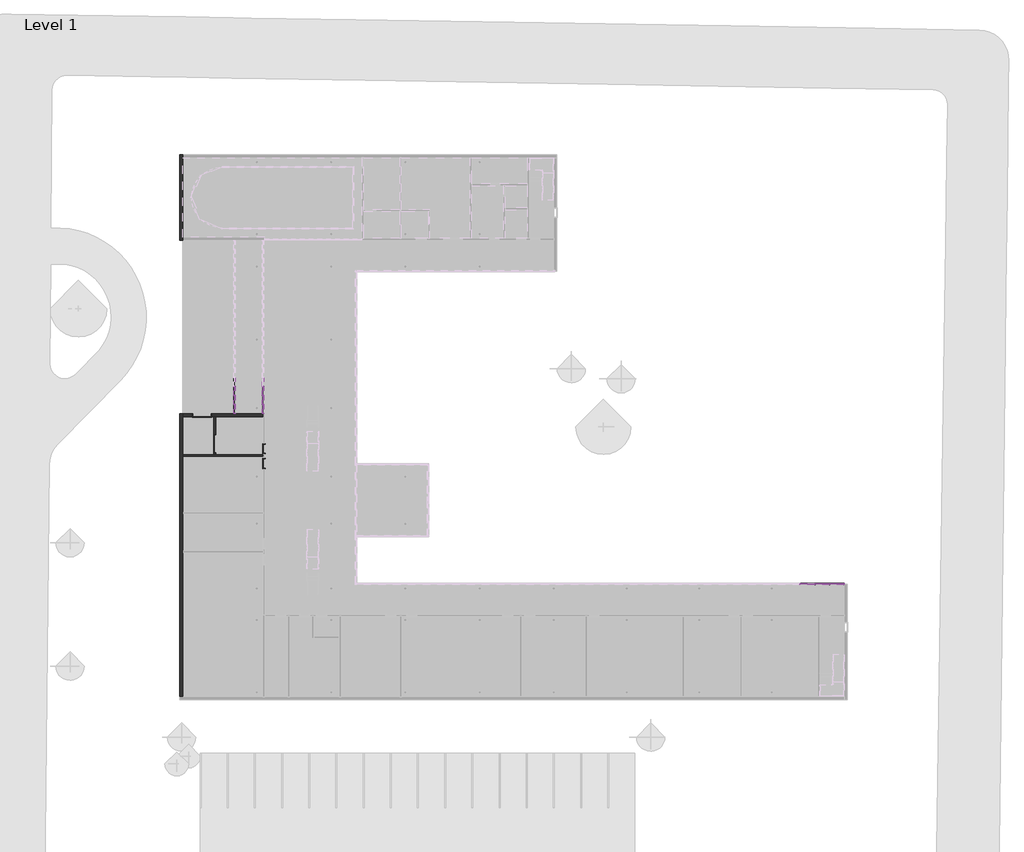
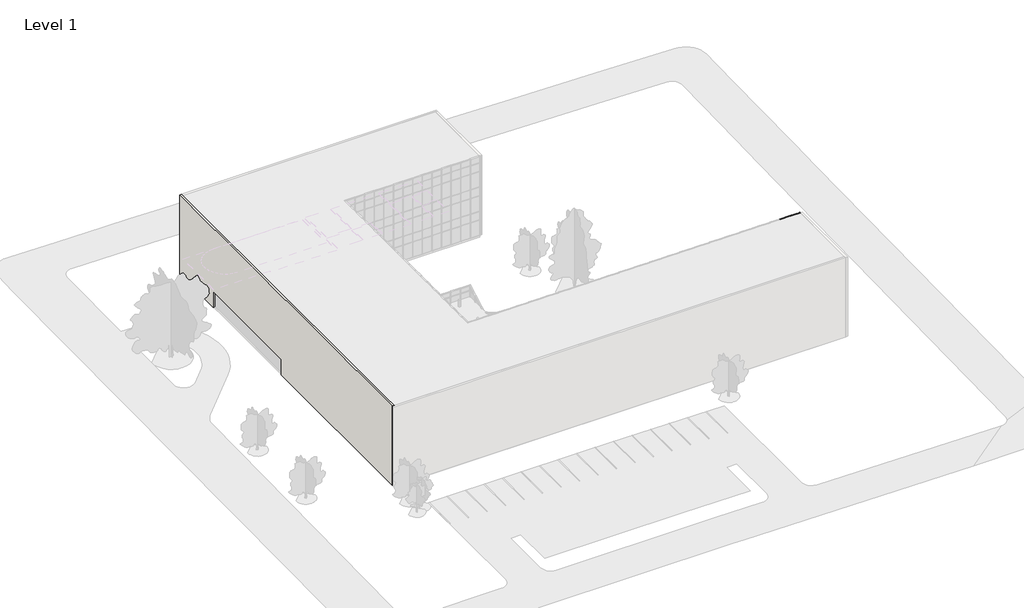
# One storey, part 9 of 23: 81 members, 28 plates, 4 doors, 4 walls.
"""IFC4 building model written with IfcOpenShell, lengths in millimetres."""

from ifc_helpers import new_model, si_unit, frame, origin, place, context, project, spatial, polyline, outline, extrude, faceted_brep, transform, mapped, element, save
from components import door_0915mm_x_2134mm_2aa27b83, door_0915mm_x_2134mm_3fa07aa3, door_2_x_0915mm_x_2134mm_c74f849d, door_2_x_0915mm_x_2134mm_afd50e46, rectangular_mullion_50mm_x_150mm_3fa3ad65, rectangular_mullion_50mm_x_150mm_d427b131, rectangular_mullion_50mm_x_150mm_d8a63713, rectangular_mullion_50mm_x_150mm_a28728bf, rectangular_mullion_50mm_x_150mm_a376ce0f, rectangular_mullion_50mm_x_150mm_4471a7bc, rectangular_mullion_50mm_x_150mm_22af440f, rectangular_mullion_50mm_x_150mm_0f59f38f, rectangular_mullion_50mm_x_150mm_0d1e5fd7, rectangular_mullion_50mm_x_150mm_5f185edf, rectangular_mullion_50mm_x_150mm_478b79f1, rectangular_mullion_50mm_x_150mm_e13fe9f0, rectangular_mullion_50mm_x_150mm_bbc1c4ea, rectangular_mullion_50mm_x_150mm_eeb88b28, rectangular_mullion_50mm_x_150mm_36202a7c, rectangular_mullion_50mm_x_150mm_84717ec5, rectangular_mullion_50mm_x_150mm_d94480a8, rectangular_mullion_50mm_x_150mm_5f630e3e, system_panel_glazed_aa3f7126, system_panel_glazed_37b7c907, system_panel_glazed_7c3f78ea, system_panel_glazed_1f05e993, system_panel_glazed_650e5b75, system_panel_glazed_65478968, system_panel_glazed_98ac4f7d, system_panel_glazed_4c130a31, system_panel_solid_0e2242f5, system_panel_solid_368a6b70, system_panel_solid_52262057, system_panel_solid_ece33ae8

model = new_model("IFC4")

# Units and contexts
model_context = context("Model", 3, world=origin())
ifc_project = project(units=[si_unit("LENGTHUNIT", "METRE", prefix="MILLI")], contexts=[model_context])

# Site, building, storey
site = spatial("IfcSite", under=ifc_project)
building = spatial("IfcBuilding", under=site)
storey = spatial("IfcBuildingStorey", under=building, Name="Level 1", Elevation=0.0)

# Doors
placement = place(None, origin())
door_0915mm_x_2134mm_shape = door_0915mm_x_2134mm_2aa27b83(model_context)
element("IfcDoor", 1, ObjectType="m-doors-hm-f1-a : 0915mm x 2134mm", at=placement, inside=storey, context=model_context, shape_type="MappedRepresentation", body=[
    mapped(door_0915mm_x_2134mm_shape, transform((-1995.8386635, 1518.5392059, 0.0), x_axis=(0.0, 1.0, 0.0), y_axis=(-1.0, 0.0, 0.0), z_axis=(0.0, 0.0, 1.0))),
])
door_0915mm_x_2134mm_2_shape = door_0915mm_x_2134mm_3fa07aa3(model_context)
element("IfcDoor", 2, ObjectType="m-doors-hm-f1-a : 0915mm x 2134mm", at=placement, inside=storey, context=model_context, shape_type="MappedRepresentation", body=[
    mapped(door_0915mm_x_2134mm_2_shape, transform((-1995.8386635, 18.5392059, 0.0), x_axis=(0.0, -1.0, 0.0), y_axis=(1.0, 0.0, 0.0), z_axis=(0.0, 0.0, 1.0))),
])
door_2_x_0915mm_x_2134mm_shape = door_2_x_0915mm_x_2134mm_c74f849d(model_context)
element("IfcDoor", 3, ObjectType="m-doors-hm-f2-a : 2 x 0915mm x 2134mm", at=placement, inside=storey, context=model_context, shape_type="MappedRepresentation", body=[
    mapped(door_2_x_0915mm_x_2134mm_shape, transform((-6944.8386635, 2018.5392059, 0.0), x_axis=(0.0, 1.0, 0.0), y_axis=(-1.0, 0.0, 0.0), z_axis=(0.0, 0.0, 1.0))),
])
door_2_x_0915mm_x_2134mm_2_shape = door_2_x_0915mm_x_2134mm_afd50e46(model_context)
element("IfcDoor", 4, ObjectType="m-doors-hm-f2-a : 2 x 0915mm x 2134mm", at=placement, inside=storey, context=model_context, shape_type="MappedRepresentation", body=[
    mapped(door_2_x_0915mm_x_2134mm_2_shape, transform((-8069.8386635, 4696.5799804, 0.0), x_axis=(-1.0, 0.0, 0.0), y_axis=(0.0, -1.0, 0.0), z_axis=(0.0, 0.0, 1.0))),
])

# Members
rectangular_mullion_50mm_x_150mm_shape = rectangular_mullion_50mm_x_150mm_3fa3ad65(model_context)
element("IfcMember", 5, ObjectType="Rectangular Mullion : 50mm x 150mm", at=placement, inside=storey, context=model_context, shape_type="MappedRepresentation", body=[
    mapped(rectangular_mullion_50mm_x_150mm_shape, transform((-1903.8386635, 5072.5799804, 3550.0), x_axis=(0.0, 0.0, 1.0), y_axis=(-1.0, 0.0, 0.0), z_axis=(0.0, -1.0, 0.0))),
])
element("IfcMember", 6, ObjectType="Rectangular Mullion : 50mm x 150mm", at=placement, inside=storey, context=model_context, shape_type="MappedRepresentation", body=[
    mapped(rectangular_mullion_50mm_x_150mm_shape, transform((-4803.8386635, 5072.5799804, 3550.0), x_axis=(0.0, 0.0, 1.0), y_axis=(-1.0, 0.0, 0.0), z_axis=(0.0, -1.0, 0.0))),
])
rectangular_mullion_50mm_x_150mm_2_shape = rectangular_mullion_50mm_x_150mm_d427b131(model_context)
element("IfcMember", 7, ObjectType="Rectangular Mullion : 50mm x 150mm", at=placement, inside=storey, context=model_context, shape_type="MappedRepresentation", body=[
    mapped(rectangular_mullion_50mm_x_150mm_2_shape, transform((-1903.8386635, 7810.4220859, 3550.0), x_axis=(0.0, 0.0, 1.0), y_axis=(-1.0, 0.0, 0.0), z_axis=(0.0, -1.0, 0.0))),
])
element("IfcMember", 8, ObjectType="Rectangular Mullion : 50mm x 150mm", at=placement, inside=storey, context=model_context, shape_type="MappedRepresentation", body=[
    mapped(rectangular_mullion_50mm_x_150mm_2_shape, transform((-1903.8386635, 6889.4747175, 3550.0), x_axis=(0.0, 0.0, 1.0), y_axis=(-1.0, 0.0, 0.0), z_axis=(0.0, -1.0, 0.0))),
])
element("IfcMember", 9, ObjectType="Rectangular Mullion : 50mm x 150mm", at=placement, inside=storey, context=model_context, shape_type="MappedRepresentation", body=[
    mapped(rectangular_mullion_50mm_x_150mm_2_shape, transform((-1903.8386635, 5968.5273491, 3550.0), x_axis=(0.0, 0.0, 1.0), y_axis=(-1.0, 0.0, 0.0), z_axis=(0.0, -1.0, 0.0))),
])
element("IfcMember", 10, ObjectType="Rectangular Mullion : 50mm x 150mm", at=placement, inside=storey, context=model_context, shape_type="MappedRepresentation", body=[
    mapped(rectangular_mullion_50mm_x_150mm_2_shape, transform((-4803.8386635, 8731.3694542, 3550.0), x_axis=(0.0, 0.0, 1.0), y_axis=(-1.0, 0.0, 0.0), z_axis=(0.0, -1.0, 0.0))),
])
element("IfcMember", 11, ObjectType="Rectangular Mullion : 50mm x 150mm", at=placement, inside=storey, context=model_context, shape_type="MappedRepresentation", body=[
    mapped(rectangular_mullion_50mm_x_150mm_2_shape, transform((-4803.8386635, 7810.4220859, 3550.0), x_axis=(0.0, 0.0, 1.0), y_axis=(-1.0, 0.0, 0.0), z_axis=(0.0, -1.0, 0.0))),
])
element("IfcMember", 12, ObjectType="Rectangular Mullion : 50mm x 150mm", at=placement, inside=storey, context=model_context, shape_type="MappedRepresentation", body=[
    mapped(rectangular_mullion_50mm_x_150mm_2_shape, transform((-4803.8386635, 6889.4747175, 3550.0), x_axis=(0.0, 0.0, 1.0), y_axis=(-1.0, 0.0, 0.0), z_axis=(0.0, -1.0, 0.0))),
])
element("IfcMember", 13, ObjectType="Rectangular Mullion : 50mm x 150mm", at=placement, inside=storey, context=model_context, shape_type="MappedRepresentation", body=[
    mapped(rectangular_mullion_50mm_x_150mm_2_shape, transform((-4803.8386635, 5968.5273491, 3550.0), x_axis=(0.0, 0.0, 1.0), y_axis=(-1.0, 0.0, 0.0), z_axis=(0.0, -1.0, 0.0))),
])
element("IfcMember", 14, ObjectType="Rectangular Mullion : 50mm x 150mm", at=placement, inside=storey, context=model_context, shape_type="MappedRepresentation", body=[
    mapped(rectangular_mullion_50mm_x_150mm_2_shape, transform((-1903.8386635, 7760.4220859, 0.0), x_axis=(0.0, 0.0, -1.0), y_axis=(-1.0, 0.0, 0.0), z_axis=(0.0, 1.0, 0.0))),
])
element("IfcMember", 15, ObjectType="Rectangular Mullion : 50mm x 150mm", at=placement, inside=storey, context=model_context, shape_type="MappedRepresentation", body=[
    mapped(rectangular_mullion_50mm_x_150mm_2_shape, transform((-1903.8386635, 6839.4747175, 0.0), x_axis=(0.0, 0.0, -1.0), y_axis=(-1.0, 0.0, 0.0), z_axis=(0.0, 1.0, 0.0))),
])
element("IfcMember", 16, ObjectType="Rectangular Mullion : 50mm x 150mm", at=placement, inside=storey, context=model_context, shape_type="MappedRepresentation", body=[
    mapped(rectangular_mullion_50mm_x_150mm_2_shape, transform((-4803.8386635, 8681.3694542, 0.0), x_axis=(0.0, 0.0, -1.0), y_axis=(-1.0, 0.0, 0.0), z_axis=(0.0, 1.0, 0.0))),
])
element("IfcMember", 17, ObjectType="Rectangular Mullion : 50mm x 150mm", at=placement, inside=storey, context=model_context, shape_type="MappedRepresentation", body=[
    mapped(rectangular_mullion_50mm_x_150mm_2_shape, transform((-4803.8386635, 7760.4220859, 0.0), x_axis=(0.0, 0.0, -1.0), y_axis=(-1.0, 0.0, 0.0), z_axis=(0.0, 1.0, 0.0))),
])
element("IfcMember", 18, ObjectType="Rectangular Mullion : 50mm x 150mm", at=placement, inside=storey, context=model_context, shape_type="MappedRepresentation", body=[
    mapped(rectangular_mullion_50mm_x_150mm_2_shape, transform((-4803.8386635, 6839.4747175, 0.0), x_axis=(0.0, 0.0, -1.0), y_axis=(-1.0, 0.0, 0.0), z_axis=(0.0, 1.0, 0.0))),
])
element("IfcMember", 19, ObjectType="Rectangular Mullion : 50mm x 150mm", at=placement, inside=storey, context=model_context, shape_type="MappedRepresentation", body=[
    mapped(rectangular_mullion_50mm_x_150mm_shape, transform((-1903.8386635, 5918.5273491, 0.0), x_axis=(0.0, 0.0, -1.0), y_axis=(-1.0, 0.0, 0.0), z_axis=(0.0, 1.0, 0.0))),
])
element("IfcMember", 20, ObjectType="Rectangular Mullion : 50mm x 150mm", at=placement, inside=storey, context=model_context, shape_type="MappedRepresentation", body=[
    mapped(rectangular_mullion_50mm_x_150mm_shape, transform((-4803.8386635, 5918.5273491, 0.0), x_axis=(0.0, 0.0, -1.0), y_axis=(-1.0, 0.0, 0.0), z_axis=(0.0, 1.0, 0.0))),
])
rectangular_mullion_50mm_x_150mm_3_shape = rectangular_mullion_50mm_x_150mm_d8a63713(model_context)
element("IfcMember", 21, ObjectType="Rectangular Mullion : 50mm x 150mm", at=placement, inside=storey, context=model_context, shape_type="MappedRepresentation", body=[
    mapped(rectangular_mullion_50mm_x_150mm_3_shape, transform((-1903.8386635, 7785.4220859, 0.0), x_axis=(0.0, -1.0, 0.0), y_axis=(-1.0, 0.0, 0.0), z_axis=(0.0, 0.0, -1.0))),
])
element("IfcMember", 22, ObjectType="Rectangular Mullion : 50mm x 150mm", at=placement, inside=storey, context=model_context, shape_type="MappedRepresentation", body=[
    mapped(rectangular_mullion_50mm_x_150mm_3_shape, transform((-1903.8386635, 6864.4747175, 0.0), x_axis=(0.0, -1.0, 0.0), y_axis=(-1.0, 0.0, 0.0), z_axis=(0.0, 0.0, -1.0))),
])
element("IfcMember", 23, ObjectType="Rectangular Mullion : 50mm x 150mm", at=placement, inside=storey, context=model_context, shape_type="MappedRepresentation", body=[
    mapped(rectangular_mullion_50mm_x_150mm_3_shape, transform((-1903.8386635, 5943.5273491, 0.0), x_axis=(0.0, -1.0, 0.0), y_axis=(-1.0, 0.0, 0.0), z_axis=(0.0, 0.0, -1.0))),
])
element("IfcMember", 24, ObjectType="Rectangular Mullion : 50mm x 150mm", at=placement, inside=storey, context=model_context, shape_type="MappedRepresentation", body=[
    mapped(rectangular_mullion_50mm_x_150mm_3_shape, transform((-4803.8386635, 7785.4220859, 0.0), x_axis=(0.0, -1.0, 0.0), y_axis=(-1.0, 0.0, 0.0), z_axis=(0.0, 0.0, -1.0))),
])
element("IfcMember", 25, ObjectType="Rectangular Mullion : 50mm x 150mm", at=placement, inside=storey, context=model_context, shape_type="MappedRepresentation", body=[
    mapped(rectangular_mullion_50mm_x_150mm_3_shape, transform((-4803.8386635, 6864.4747175, 0.0), x_axis=(0.0, -1.0, 0.0), y_axis=(-1.0, 0.0, 0.0), z_axis=(0.0, 0.0, -1.0))),
])
element("IfcMember", 26, ObjectType="Rectangular Mullion : 50mm x 150mm", at=placement, inside=storey, context=model_context, shape_type="MappedRepresentation", body=[
    mapped(rectangular_mullion_50mm_x_150mm_3_shape, transform((-4803.8386635, 5943.5273491, 0.0), x_axis=(0.0, -1.0, 0.0), y_axis=(-1.0, 0.0, 0.0), z_axis=(0.0, 0.0, -1.0))),
])
rectangular_mullion_50mm_x_150mm_4_shape = rectangular_mullion_50mm_x_150mm_a28728bf(model_context)
element("IfcMember", 27, ObjectType="Rectangular Mullion : 50mm x 150mm", at=placement, inside=storey, context=model_context, shape_type="MappedRepresentation", body=[
    mapped(rectangular_mullion_50mm_x_150mm_4_shape, transform((-1903.8386635, 7785.4220859, 2135.0), x_axis=(0.0, -1.0, 0.0), y_axis=(-1.0, 0.0, 0.0), z_axis=(0.0, 0.0, -1.0))),
])
element("IfcMember", 28, ObjectType="Rectangular Mullion : 50mm x 150mm", at=placement, inside=storey, context=model_context, shape_type="MappedRepresentation", body=[
    mapped(rectangular_mullion_50mm_x_150mm_4_shape, transform((-1903.8386635, 6864.4747175, 2135.0), x_axis=(0.0, -1.0, 0.0), y_axis=(-1.0, 0.0, 0.0), z_axis=(0.0, 0.0, -1.0))),
])
element("IfcMember", 29, ObjectType="Rectangular Mullion : 50mm x 150mm", at=placement, inside=storey, context=model_context, shape_type="MappedRepresentation", body=[
    mapped(rectangular_mullion_50mm_x_150mm_4_shape, transform((-1903.8386635, 5943.5273491, 2135.0), x_axis=(0.0, -1.0, 0.0), y_axis=(-1.0, 0.0, 0.0), z_axis=(0.0, 0.0, -1.0))),
])
element("IfcMember", 30, ObjectType="Rectangular Mullion : 50mm x 150mm", at=placement, inside=storey, context=model_context, shape_type="MappedRepresentation", body=[
    mapped(rectangular_mullion_50mm_x_150mm_4_shape, transform((-4803.8386635, 7785.4220859, 2135.0), x_axis=(0.0, -1.0, 0.0), y_axis=(-1.0, 0.0, 0.0), z_axis=(0.0, 0.0, -1.0))),
])
element("IfcMember", 31, ObjectType="Rectangular Mullion : 50mm x 150mm", at=placement, inside=storey, context=model_context, shape_type="MappedRepresentation", body=[
    mapped(rectangular_mullion_50mm_x_150mm_4_shape, transform((-4803.8386635, 6864.4747175, 2135.0), x_axis=(0.0, -1.0, 0.0), y_axis=(-1.0, 0.0, 0.0), z_axis=(0.0, 0.0, -1.0))),
])
element("IfcMember", 32, ObjectType="Rectangular Mullion : 50mm x 150mm", at=placement, inside=storey, context=model_context, shape_type="MappedRepresentation", body=[
    mapped(rectangular_mullion_50mm_x_150mm_4_shape, transform((-4803.8386635, 5943.5273491, 2135.0), x_axis=(0.0, -1.0, 0.0), y_axis=(-1.0, 0.0, 0.0), z_axis=(0.0, 0.0, -1.0))),
])
rectangular_mullion_50mm_x_150mm_5_shape = rectangular_mullion_50mm_x_150mm_a376ce0f(model_context)
element("IfcMember", 33, ObjectType="Rectangular Mullion : 50mm x 150mm", at=placement, inside=storey, context=model_context, shape_type="MappedRepresentation", body=[
    mapped(rectangular_mullion_50mm_x_150mm_5_shape, transform((-1903.8386635, 5072.5799804, 2135.0), x_axis=(0.0, 0.0, 1.0), y_axis=(-1.0, 0.0, 0.0), z_axis=(0.0, -1.0, 0.0))),
])
element("IfcMember", 34, ObjectType="Rectangular Mullion : 50mm x 150mm", at=placement, inside=storey, context=model_context, shape_type="MappedRepresentation", body=[
    mapped(rectangular_mullion_50mm_x_150mm_5_shape, transform((-4803.8386635, 5072.5799804, 2135.0), x_axis=(0.0, 0.0, 1.0), y_axis=(-1.0, 0.0, 0.0), z_axis=(0.0, -1.0, 0.0))),
])
rectangular_mullion_50mm_x_150mm_6_shape = rectangular_mullion_50mm_x_150mm_4471a7bc(model_context)
element("IfcMember", 35, ObjectType="Rectangular Mullion : 50mm x 150mm", at=placement, inside=storey, context=model_context, shape_type="MappedRepresentation", body=[
    mapped(rectangular_mullion_50mm_x_150mm_6_shape, transform((-1903.8386635, 7810.4220859, 2135.0), x_axis=(0.0, 0.0, 1.0), y_axis=(-1.0, 0.0, 0.0), z_axis=(0.0, -1.0, 0.0))),
])
element("IfcMember", 36, ObjectType="Rectangular Mullion : 50mm x 150mm", at=placement, inside=storey, context=model_context, shape_type="MappedRepresentation", body=[
    mapped(rectangular_mullion_50mm_x_150mm_6_shape, transform((-1903.8386635, 6889.4747175, 2135.0), x_axis=(0.0, 0.0, 1.0), y_axis=(-1.0, 0.0, 0.0), z_axis=(0.0, -1.0, 0.0))),
])
element("IfcMember", 37, ObjectType="Rectangular Mullion : 50mm x 150mm", at=placement, inside=storey, context=model_context, shape_type="MappedRepresentation", body=[
    mapped(rectangular_mullion_50mm_x_150mm_6_shape, transform((-1903.8386635, 5968.5273491, 2135.0), x_axis=(0.0, 0.0, 1.0), y_axis=(-1.0, 0.0, 0.0), z_axis=(0.0, -1.0, 0.0))),
])
element("IfcMember", 38, ObjectType="Rectangular Mullion : 50mm x 150mm", at=placement, inside=storey, context=model_context, shape_type="MappedRepresentation", body=[
    mapped(rectangular_mullion_50mm_x_150mm_6_shape, transform((-4803.8386635, 7810.4220859, 2135.0), x_axis=(0.0, 0.0, 1.0), y_axis=(-1.0, 0.0, 0.0), z_axis=(0.0, -1.0, 0.0))),
])
element("IfcMember", 39, ObjectType="Rectangular Mullion : 50mm x 150mm", at=placement, inside=storey, context=model_context, shape_type="MappedRepresentation", body=[
    mapped(rectangular_mullion_50mm_x_150mm_6_shape, transform((-4803.8386635, 6889.4747175, 2135.0), x_axis=(0.0, 0.0, 1.0), y_axis=(-1.0, 0.0, 0.0), z_axis=(0.0, -1.0, 0.0))),
])
element("IfcMember", 40, ObjectType="Rectangular Mullion : 50mm x 150mm", at=placement, inside=storey, context=model_context, shape_type="MappedRepresentation", body=[
    mapped(rectangular_mullion_50mm_x_150mm_6_shape, transform((-4803.8386635, 5968.5273491, 2135.0), x_axis=(0.0, 0.0, 1.0), y_axis=(-1.0, 0.0, 0.0), z_axis=(0.0, -1.0, 0.0))),
])
rectangular_mullion_50mm_x_150mm_7_shape = rectangular_mullion_50mm_x_150mm_22af440f(model_context)
element("IfcMember", 41, ObjectType="Rectangular Mullion : 50mm x 150mm", at=placement, inside=storey, context=model_context, shape_type="MappedRepresentation", body=[
    mapped(rectangular_mullion_50mm_x_150mm_7_shape, transform((-1903.8386635, 5022.5799804, 0.0), x_axis=(0.0, -1.0, 0.0), y_axis=(-1.0, 0.0, 0.0), z_axis=(0.0, 0.0, -1.0))),
])
element("IfcMember", 42, ObjectType="Rectangular Mullion : 50mm x 150mm", at=placement, inside=storey, context=model_context, shape_type="MappedRepresentation", body=[
    mapped(rectangular_mullion_50mm_x_150mm_7_shape, transform((-4803.8386635, 5022.5799804, 0.0), x_axis=(0.0, -1.0, 0.0), y_axis=(-1.0, 0.0, 0.0), z_axis=(0.0, 0.0, -1.0))),
])
rectangular_mullion_50mm_x_150mm_8_shape = rectangular_mullion_50mm_x_150mm_0f59f38f(model_context)
element("IfcMember", 43, ObjectType="Rectangular Mullion : 50mm x 150mm", at=placement, inside=storey, context=model_context, shape_type="MappedRepresentation", body=[
    mapped(rectangular_mullion_50mm_x_150mm_8_shape, transform((-1903.8386635, 5022.5799804, 2135.0), x_axis=(0.0, -1.0, 0.0), y_axis=(-1.0, 0.0, 0.0), z_axis=(0.0, 0.0, -1.0))),
])
element("IfcMember", 44, ObjectType="Rectangular Mullion : 50mm x 150mm", at=placement, inside=storey, context=model_context, shape_type="MappedRepresentation", body=[
    mapped(rectangular_mullion_50mm_x_150mm_8_shape, transform((-4803.8386635, 5022.5799804, 2135.0), x_axis=(0.0, -1.0, 0.0), y_axis=(-1.0, 0.0, 0.0), z_axis=(0.0, 0.0, -1.0))),
])
rectangular_mullion_50mm_x_150mm_9_shape = rectangular_mullion_50mm_x_150mm_0d1e5fd7(model_context)
element("IfcMember", 45, ObjectType="Rectangular Mullion : 50mm x 150mm", at=placement, inside=storey, context=model_context, shape_type="MappedRepresentation", body=[
    mapped(rectangular_mullion_50mm_x_150mm_9_shape, transform((55231.6441177, -12132.3615692, 12400.0), x_axis=(0.0, 0.0, 1.0), y_axis=(0.0, 1.0, 0.0), z_axis=(-1.0, 0.0, 0.0))),
])
element("IfcMember", 46, ObjectType="Rectangular Mullion : 50mm x 150mm", at=placement, inside=storey, context=model_context, shape_type="MappedRepresentation", body=[
    mapped(rectangular_mullion_50mm_x_150mm_9_shape, transform((56649.1173382, -12132.3615692, 0.0), x_axis=(0.0, 0.0, -1.0), y_axis=(0.0, 1.0, 0.0), z_axis=(1.0, 0.0, 0.0))),
])
rectangular_mullion_50mm_x_150mm_10_shape = rectangular_mullion_50mm_x_150mm_5f185edf(model_context)
element("IfcMember", 47, ObjectType="Rectangular Mullion : 50mm x 150mm", at=placement, inside=storey, context=model_context, shape_type="MappedRepresentation", body=[
    mapped(rectangular_mullion_50mm_x_150mm_10_shape, transform((53739.1708976, -12132.3615692, 12400.0), x_axis=(0.0, 0.0, 1.0), y_axis=(0.0, 1.0, 0.0), z_axis=(-1.0, 0.0, 0.0))),
])
element("IfcMember", 48, ObjectType="Rectangular Mullion : 50mm x 150mm", at=placement, inside=storey, context=model_context, shape_type="MappedRepresentation", body=[
    mapped(rectangular_mullion_50mm_x_150mm_10_shape, transform((55181.6441177, -12132.3615692, 0.0), x_axis=(0.0, 0.0, -1.0), y_axis=(0.0, 1.0, 0.0), z_axis=(1.0, 0.0, 0.0))),
])
element("IfcMember", 49, ObjectType="Rectangular Mullion : 50mm x 150mm", at=placement, inside=storey, context=model_context, shape_type="MappedRepresentation", body=[
    mapped(rectangular_mullion_50mm_x_150mm_10_shape, transform((53689.1708976, -12132.3615692, 0.0), x_axis=(0.0, 0.0, -1.0), y_axis=(0.0, 1.0, 0.0), z_axis=(1.0, 0.0, 0.0))),
])
rectangular_mullion_50mm_x_150mm_11_shape = rectangular_mullion_50mm_x_150mm_478b79f1(model_context)
element("IfcMember", 50, ObjectType="Rectangular Mullion : 50mm x 150mm", at=placement, inside=storey, context=model_context, shape_type="MappedRepresentation", body=[
    mapped(rectangular_mullion_50mm_x_150mm_11_shape, transform((55231.6441177, -12132.3615692, 3800.0), x_axis=(0.0, 0.0, 1.0), y_axis=(0.0, 1.0, 0.0), z_axis=(-1.0, 0.0, 0.0))),
])
element("IfcMember", 51, ObjectType="Rectangular Mullion : 50mm x 150mm", at=placement, inside=storey, context=model_context, shape_type="MappedRepresentation", body=[
    mapped(rectangular_mullion_50mm_x_150mm_11_shape, transform((55231.6441177, -12132.3615692, 7600.0), x_axis=(0.0, 0.0, 1.0), y_axis=(0.0, 1.0, 0.0), z_axis=(-1.0, 0.0, 0.0))),
])
element("IfcMember", 52, ObjectType="Rectangular Mullion : 50mm x 150mm", at=placement, inside=storey, context=model_context, shape_type="MappedRepresentation", body=[
    mapped(rectangular_mullion_50mm_x_150mm_11_shape, transform((55231.6441177, -12132.3615692, 11400.0), x_axis=(0.0, 0.0, 1.0), y_axis=(0.0, 1.0, 0.0), z_axis=(-1.0, 0.0, 0.0))),
])
element("IfcMember", 53, ObjectType="Rectangular Mullion : 50mm x 150mm", at=placement, inside=storey, context=model_context, shape_type="MappedRepresentation", body=[
    mapped(rectangular_mullion_50mm_x_150mm_11_shape, transform((55231.6441177, -12132.3615692, 2440.0), x_axis=(0.0, 0.0, 1.0), y_axis=(0.0, 1.0, 0.0), z_axis=(-1.0, 0.0, 0.0))),
])
element("IfcMember", 54, ObjectType="Rectangular Mullion : 50mm x 150mm", at=placement, inside=storey, context=model_context, shape_type="MappedRepresentation", body=[
    mapped(rectangular_mullion_50mm_x_150mm_11_shape, transform((55231.6441177, -12132.3615692, 6240.0), x_axis=(0.0, 0.0, 1.0), y_axis=(0.0, 1.0, 0.0), z_axis=(-1.0, 0.0, 0.0))),
])
element("IfcMember", 55, ObjectType="Rectangular Mullion : 50mm x 150mm", at=placement, inside=storey, context=model_context, shape_type="MappedRepresentation", body=[
    mapped(rectangular_mullion_50mm_x_150mm_11_shape, transform((55231.6441177, -12132.3615692, 10040.0), x_axis=(0.0, 0.0, 1.0), y_axis=(0.0, 1.0, 0.0), z_axis=(-1.0, 0.0, 0.0))),
])
rectangular_mullion_50mm_x_150mm_12_shape = rectangular_mullion_50mm_x_150mm_e13fe9f0(model_context)
element("IfcMember", 56, ObjectType="Rectangular Mullion : 50mm x 150mm", at=placement, inside=storey, context=model_context, shape_type="MappedRepresentation", body=[
    mapped(rectangular_mullion_50mm_x_150mm_12_shape, transform((53739.1708976, -12132.3615692, 3800.0), x_axis=(0.0, 0.0, 1.0), y_axis=(0.0, 1.0, 0.0), z_axis=(-1.0, 0.0, 0.0))),
])
element("IfcMember", 57, ObjectType="Rectangular Mullion : 50mm x 150mm", at=placement, inside=storey, context=model_context, shape_type="MappedRepresentation", body=[
    mapped(rectangular_mullion_50mm_x_150mm_12_shape, transform((53739.1708976, -12132.3615692, 7600.0), x_axis=(0.0, 0.0, 1.0), y_axis=(0.0, 1.0, 0.0), z_axis=(-1.0, 0.0, 0.0))),
])
element("IfcMember", 58, ObjectType="Rectangular Mullion : 50mm x 150mm", at=placement, inside=storey, context=model_context, shape_type="MappedRepresentation", body=[
    mapped(rectangular_mullion_50mm_x_150mm_12_shape, transform((53739.1708976, -12132.3615692, 11400.0), x_axis=(0.0, 0.0, 1.0), y_axis=(0.0, 1.0, 0.0), z_axis=(-1.0, 0.0, 0.0))),
])
element("IfcMember", 59, ObjectType="Rectangular Mullion : 50mm x 150mm", at=placement, inside=storey, context=model_context, shape_type="MappedRepresentation", body=[
    mapped(rectangular_mullion_50mm_x_150mm_12_shape, transform((53739.1708976, -12132.3615692, 2440.0), x_axis=(0.0, 0.0, 1.0), y_axis=(0.0, 1.0, 0.0), z_axis=(-1.0, 0.0, 0.0))),
])
element("IfcMember", 60, ObjectType="Rectangular Mullion : 50mm x 150mm", at=placement, inside=storey, context=model_context, shape_type="MappedRepresentation", body=[
    mapped(rectangular_mullion_50mm_x_150mm_12_shape, transform((53739.1708976, -12132.3615692, 6240.0), x_axis=(0.0, 0.0, 1.0), y_axis=(0.0, 1.0, 0.0), z_axis=(-1.0, 0.0, 0.0))),
])
element("IfcMember", 61, ObjectType="Rectangular Mullion : 50mm x 150mm", at=placement, inside=storey, context=model_context, shape_type="MappedRepresentation", body=[
    mapped(rectangular_mullion_50mm_x_150mm_12_shape, transform((53739.1708976, -12132.3615692, 10040.0), x_axis=(0.0, 0.0, 1.0), y_axis=(0.0, 1.0, 0.0), z_axis=(-1.0, 0.0, 0.0))),
])
element("IfcMember", 62, ObjectType="Rectangular Mullion : 50mm x 150mm", at=placement, inside=storey, context=model_context, shape_type="MappedRepresentation", body=[
    mapped(rectangular_mullion_50mm_x_150mm_12_shape, transform((52246.6976774, -12132.3615692, 10040.0), x_axis=(0.0, 0.0, 1.0), y_axis=(0.0, 1.0, 0.0), z_axis=(-1.0, 0.0, 0.0))),
])
rectangular_mullion_50mm_x_150mm_13_shape = rectangular_mullion_50mm_x_150mm_bbc1c4ea(model_context)
element("IfcMember", 63, ObjectType="Rectangular Mullion : 50mm x 150mm", at=placement, inside=storey, context=model_context, shape_type="MappedRepresentation", body=[
    mapped(rectangular_mullion_50mm_x_150mm_13_shape, transform((55206.6441177, -12132.3615692, 11400.0), x_axis=(-1.0, 0.0, 0.0), y_axis=(0.0, 1.0, 0.0), z_axis=(0.0, 0.0, -1.0))),
])
element("IfcMember", 64, ObjectType="Rectangular Mullion : 50mm x 150mm", at=placement, inside=storey, context=model_context, shape_type="MappedRepresentation", body=[
    mapped(rectangular_mullion_50mm_x_150mm_13_shape, transform((53714.1708976, -12132.3615692, 11400.0), x_axis=(-1.0, 0.0, 0.0), y_axis=(0.0, 1.0, 0.0), z_axis=(0.0, 0.0, -1.0))),
])
rectangular_mullion_50mm_x_150mm_14_shape = rectangular_mullion_50mm_x_150mm_eeb88b28(model_context)
element("IfcMember", 65, ObjectType="Rectangular Mullion : 50mm x 150mm", at=placement, inside=storey, context=model_context, shape_type="MappedRepresentation", body=[
    mapped(rectangular_mullion_50mm_x_150mm_14_shape, transform((56699.1173382, -12132.3615692, 12400.0), x_axis=(1.0, 0.0, 0.0), y_axis=(0.0, 1.0, 0.0), z_axis=(0.0, 0.0, 1.0))),
])
rectangular_mullion_50mm_x_150mm_15_shape = rectangular_mullion_50mm_x_150mm_36202a7c(model_context)
element("IfcMember", 66, ObjectType="Rectangular Mullion : 50mm x 150mm", at=placement, inside=storey, context=model_context, shape_type="MappedRepresentation", body=[
    mapped(rectangular_mullion_50mm_x_150mm_15_shape, transform((55206.6441177, -12132.3615692, 0.0), x_axis=(-1.0, 0.0, 0.0), y_axis=(0.0, 1.0, 0.0), z_axis=(0.0, 0.0, -1.0))),
])
element("IfcMember", 67, ObjectType="Rectangular Mullion : 50mm x 150mm", at=placement, inside=storey, context=model_context, shape_type="MappedRepresentation", body=[
    mapped(rectangular_mullion_50mm_x_150mm_15_shape, transform((53714.1708976, -12132.3615692, 0.0), x_axis=(-1.0, 0.0, 0.0), y_axis=(0.0, 1.0, 0.0), z_axis=(0.0, 0.0, -1.0))),
])
rectangular_mullion_50mm_x_150mm_16_shape = rectangular_mullion_50mm_x_150mm_84717ec5(model_context)
element("IfcMember", 68, ObjectType="Rectangular Mullion : 50mm x 150mm", at=placement, inside=storey, context=model_context, shape_type="MappedRepresentation", body=[
    mapped(rectangular_mullion_50mm_x_150mm_16_shape, transform((55206.6441177, -12132.3615692, 2440.0), x_axis=(-1.0, 0.0, 0.0), y_axis=(0.0, 1.0, 0.0), z_axis=(0.0, 0.0, -1.0))),
])
element("IfcMember", 69, ObjectType="Rectangular Mullion : 50mm x 150mm", at=placement, inside=storey, context=model_context, shape_type="MappedRepresentation", body=[
    mapped(rectangular_mullion_50mm_x_150mm_16_shape, transform((53714.1708976, -12132.3615692, 2440.0), x_axis=(-1.0, 0.0, 0.0), y_axis=(0.0, 1.0, 0.0), z_axis=(0.0, 0.0, -1.0))),
])
element("IfcMember", 70, ObjectType="Rectangular Mullion : 50mm x 150mm", at=placement, inside=storey, context=model_context, shape_type="MappedRepresentation", body=[
    mapped(rectangular_mullion_50mm_x_150mm_16_shape, transform((55206.6441177, -12132.3615692, 6240.0), x_axis=(-1.0, 0.0, 0.0), y_axis=(0.0, 1.0, 0.0), z_axis=(0.0, 0.0, -1.0))),
])
element("IfcMember", 71, ObjectType="Rectangular Mullion : 50mm x 150mm", at=placement, inside=storey, context=model_context, shape_type="MappedRepresentation", body=[
    mapped(rectangular_mullion_50mm_x_150mm_16_shape, transform((53714.1708976, -12132.3615692, 6240.0), x_axis=(-1.0, 0.0, 0.0), y_axis=(0.0, 1.0, 0.0), z_axis=(0.0, 0.0, -1.0))),
])
element("IfcMember", 72, ObjectType="Rectangular Mullion : 50mm x 150mm", at=placement, inside=storey, context=model_context, shape_type="MappedRepresentation", body=[
    mapped(rectangular_mullion_50mm_x_150mm_16_shape, transform((52221.6976774, -12132.3615692, 6240.0), x_axis=(-1.0, 0.0, 0.0), y_axis=(0.0, 1.0, 0.0), z_axis=(0.0, 0.0, -1.0))),
])
element("IfcMember", 73, ObjectType="Rectangular Mullion : 50mm x 150mm", at=placement, inside=storey, context=model_context, shape_type="MappedRepresentation", body=[
    mapped(rectangular_mullion_50mm_x_150mm_16_shape, transform((55206.6441177, -12132.3615692, 10040.0), x_axis=(-1.0, 0.0, 0.0), y_axis=(0.0, 1.0, 0.0), z_axis=(0.0, 0.0, -1.0))),
])
element("IfcMember", 74, ObjectType="Rectangular Mullion : 50mm x 150mm", at=placement, inside=storey, context=model_context, shape_type="MappedRepresentation", body=[
    mapped(rectangular_mullion_50mm_x_150mm_16_shape, transform((53714.1708976, -12132.3615692, 10040.0), x_axis=(-1.0, 0.0, 0.0), y_axis=(0.0, 1.0, 0.0), z_axis=(0.0, 0.0, -1.0))),
])
element("IfcMember", 75, ObjectType="Rectangular Mullion : 50mm x 150mm", at=placement, inside=storey, context=model_context, shape_type="MappedRepresentation", body=[
    mapped(rectangular_mullion_50mm_x_150mm_16_shape, transform((52221.6976774, -12132.3615692, 10040.0), x_axis=(-1.0, 0.0, 0.0), y_axis=(0.0, 1.0, 0.0), z_axis=(0.0, 0.0, -1.0))),
])
rectangular_mullion_50mm_x_150mm_17_shape = rectangular_mullion_50mm_x_150mm_d94480a8(model_context)
element("IfcMember", 76, ObjectType="Rectangular Mullion : 50mm x 150mm", at=placement, inside=storey, context=model_context, shape_type="MappedRepresentation", body=[
    mapped(rectangular_mullion_50mm_x_150mm_17_shape, transform((56699.1173382, -12132.3615692, 3800.0), x_axis=(1.0, 0.0, 0.0), y_axis=(0.0, 1.0, 0.0), z_axis=(0.0, 0.0, 1.0))),
])
element("IfcMember", 77, ObjectType="Rectangular Mullion : 50mm x 150mm", at=placement, inside=storey, context=model_context, shape_type="MappedRepresentation", body=[
    mapped(rectangular_mullion_50mm_x_150mm_17_shape, transform((56699.1173382, -12132.3615692, 7600.0), x_axis=(1.0, 0.0, 0.0), y_axis=(0.0, 1.0, 0.0), z_axis=(0.0, 0.0, 1.0))),
])
element("IfcMember", 78, ObjectType="Rectangular Mullion : 50mm x 150mm", at=placement, inside=storey, context=model_context, shape_type="MappedRepresentation", body=[
    mapped(rectangular_mullion_50mm_x_150mm_17_shape, transform((56699.1173382, -12132.3615692, 11400.0), x_axis=(1.0, 0.0, 0.0), y_axis=(0.0, 1.0, 0.0), z_axis=(0.0, 0.0, 1.0))),
])
rectangular_mullion_50mm_x_150mm_18_shape = rectangular_mullion_50mm_x_150mm_5f630e3e(model_context)
element("IfcMember", 79, ObjectType="Rectangular Mullion : 50mm x 150mm", at=placement, inside=storey, context=model_context, shape_type="MappedRepresentation", body=[
    mapped(rectangular_mullion_50mm_x_150mm_18_shape, transform((56699.1173382, -12132.3615692, 2440.0), x_axis=(1.0, 0.0, 0.0), y_axis=(0.0, 1.0, 0.0), z_axis=(0.0, 0.0, 1.0))),
])
element("IfcMember", 80, ObjectType="Rectangular Mullion : 50mm x 150mm", at=placement, inside=storey, context=model_context, shape_type="MappedRepresentation", body=[
    mapped(rectangular_mullion_50mm_x_150mm_15_shape, transform((55206.6441177, -12132.3615692, 3800.0), x_axis=(-1.0, 0.0, 0.0), y_axis=(0.0, 1.0, 0.0), z_axis=(0.0, 0.0, -1.0))),
])
element("IfcMember", 81, ObjectType="Rectangular Mullion : 50mm x 150mm", at=placement, inside=storey, context=model_context, shape_type="MappedRepresentation", body=[
    mapped(rectangular_mullion_50mm_x_150mm_15_shape, transform((53714.1708976, -12132.3615692, 3800.0), x_axis=(-1.0, 0.0, 0.0), y_axis=(0.0, 1.0, 0.0), z_axis=(0.0, 0.0, -1.0))),
])
element("IfcMember", 82, ObjectType="Rectangular Mullion : 50mm x 150mm", at=placement, inside=storey, context=model_context, shape_type="MappedRepresentation", body=[
    mapped(rectangular_mullion_50mm_x_150mm_15_shape, transform((55206.6441177, -12132.3615692, 7600.0), x_axis=(-1.0, 0.0, 0.0), y_axis=(0.0, 1.0, 0.0), z_axis=(0.0, 0.0, -1.0))),
])
element("IfcMember", 83, ObjectType="Rectangular Mullion : 50mm x 150mm", at=placement, inside=storey, context=model_context, shape_type="MappedRepresentation", body=[
    mapped(rectangular_mullion_50mm_x_150mm_15_shape, transform((53714.1708976, -12132.3615692, 7600.0), x_axis=(-1.0, 0.0, 0.0), y_axis=(0.0, 1.0, 0.0), z_axis=(0.0, 0.0, -1.0))),
])
element("IfcMember", 84, ObjectType="Rectangular Mullion : 50mm x 150mm", at=placement, inside=storey, context=model_context, shape_type="MappedRepresentation", body=[
    mapped(rectangular_mullion_50mm_x_150mm_18_shape, transform((56699.1173382, -12132.3615692, 6240.0), x_axis=(1.0, 0.0, 0.0), y_axis=(0.0, 1.0, 0.0), z_axis=(0.0, 0.0, 1.0))),
])
element("IfcMember", 85, ObjectType="Rectangular Mullion : 50mm x 150mm", at=placement, inside=storey, context=model_context, shape_type="MappedRepresentation", body=[
    mapped(rectangular_mullion_50mm_x_150mm_18_shape, transform((56699.1173382, -12132.3615692, 10040.0), x_axis=(1.0, 0.0, 0.0), y_axis=(0.0, 1.0, 0.0), z_axis=(0.0, 0.0, 1.0))),
])

# Plates
system_panel_glazed_shape = system_panel_glazed_aa3f7126(model_context)
element("IfcPlate", 86, ObjectType="System Panel : Glazed", at=placement, inside=storey, context=model_context, shape_type="MappedRepresentation", body=[
    mapped(system_panel_glazed_shape, transform((-1903.8386635, 5495.5536647, 50.0), x_axis=(0.0, -1.0, 0.0), y_axis=(1.0, 0.0, 0.0), z_axis=(0.0, 0.0, 1.0))),
])
element("IfcPlate", 87, ObjectType="System Panel : Glazed", at=placement, inside=storey, context=model_context, shape_type="MappedRepresentation", body=[
    mapped(system_panel_glazed_shape, transform((-4803.8386635, 5495.5536647, 50.0), x_axis=(0.0, -1.0, 0.0), y_axis=(1.0, 0.0, 0.0), z_axis=(0.0, 0.0, 1.0))),
])
system_panel_glazed_2_shape = system_panel_glazed_37b7c907(model_context)
element("IfcPlate", 88, ObjectType="System Panel : Glazed", at=placement, inside=storey, context=model_context, shape_type="MappedRepresentation", body=[
    mapped(system_panel_glazed_2_shape, transform((-1903.8386635, 7324.9484017, 50.0), x_axis=(0.0, -1.0, 0.0), y_axis=(1.0, 0.0, 0.0), z_axis=(0.0, 0.0, 1.0))),
])
element("IfcPlate", 89, ObjectType="System Panel : Glazed", at=placement, inside=storey, context=model_context, shape_type="MappedRepresentation", body=[
    mapped(system_panel_glazed_2_shape, transform((-1903.8386635, 6404.0010333, 50.0), x_axis=(0.0, -1.0, 0.0), y_axis=(1.0, 0.0, 0.0), z_axis=(0.0, 0.0, 1.0))),
])
element("IfcPlate", 90, ObjectType="System Panel : Glazed", at=placement, inside=storey, context=model_context, shape_type="MappedRepresentation", body=[
    mapped(system_panel_glazed_2_shape, transform((-4803.8386635, 8245.8957701, 50.0), x_axis=(0.0, -1.0, 0.0), y_axis=(1.0, 0.0, 0.0), z_axis=(0.0, 0.0, 1.0))),
])
element("IfcPlate", 91, ObjectType="System Panel : Glazed", at=placement, inside=storey, context=model_context, shape_type="MappedRepresentation", body=[
    mapped(system_panel_glazed_2_shape, transform((-4803.8386635, 7324.9484017, 50.0), x_axis=(0.0, -1.0, 0.0), y_axis=(1.0, 0.0, 0.0), z_axis=(0.0, 0.0, 1.0))),
])
element("IfcPlate", 92, ObjectType="System Panel : Glazed", at=placement, inside=storey, context=model_context, shape_type="MappedRepresentation", body=[
    mapped(system_panel_glazed_2_shape, transform((-4803.8386635, 6404.0010333, 50.0), x_axis=(0.0, -1.0, 0.0), y_axis=(1.0, 0.0, 0.0), z_axis=(0.0, 0.0, 1.0))),
])
system_panel_glazed_3_shape = system_panel_glazed_7c3f78ea(model_context)
element("IfcPlate", 93, ObjectType="System Panel : Glazed", at=placement, inside=storey, context=model_context, shape_type="MappedRepresentation", body=[
    mapped(system_panel_glazed_3_shape, transform((-1903.8386635, 5495.5536647, 2160.0), x_axis=(0.0, -1.0, 0.0), y_axis=(1.0, 0.0, 0.0), z_axis=(0.0, 0.0, 1.0))),
])
element("IfcPlate", 94, ObjectType="System Panel : Glazed", at=placement, inside=storey, context=model_context, shape_type="MappedRepresentation", body=[
    mapped(system_panel_glazed_3_shape, transform((-4803.8386635, 5495.5536647, 2160.0), x_axis=(0.0, -1.0, 0.0), y_axis=(1.0, 0.0, 0.0), z_axis=(0.0, 0.0, 1.0))),
])
system_panel_glazed_4_shape = system_panel_glazed_1f05e993(model_context)
element("IfcPlate", 95, ObjectType="System Panel : Glazed", at=placement, inside=storey, context=model_context, shape_type="MappedRepresentation", body=[
    mapped(system_panel_glazed_4_shape, transform((-1903.8386635, 7324.9484017, 2160.0), x_axis=(0.0, -1.0, 0.0), y_axis=(1.0, 0.0, 0.0), z_axis=(0.0, 0.0, 1.0))),
])
element("IfcPlate", 96, ObjectType="System Panel : Glazed", at=placement, inside=storey, context=model_context, shape_type="MappedRepresentation", body=[
    mapped(system_panel_glazed_4_shape, transform((-1903.8386635, 6404.0010333, 2160.0), x_axis=(0.0, -1.0, 0.0), y_axis=(1.0, 0.0, 0.0), z_axis=(0.0, 0.0, 1.0))),
])
element("IfcPlate", 97, ObjectType="System Panel : Glazed", at=placement, inside=storey, context=model_context, shape_type="MappedRepresentation", body=[
    mapped(system_panel_glazed_4_shape, transform((-4803.8386635, 7324.9484017, 2160.0), x_axis=(0.0, -1.0, 0.0), y_axis=(1.0, 0.0, 0.0), z_axis=(0.0, 0.0, 1.0))),
])
element("IfcPlate", 98, ObjectType="System Panel : Glazed", at=placement, inside=storey, context=model_context, shape_type="MappedRepresentation", body=[
    mapped(system_panel_glazed_4_shape, transform((-4803.8386635, 6404.0010333, 2160.0), x_axis=(0.0, -1.0, 0.0), y_axis=(1.0, 0.0, 0.0), z_axis=(0.0, 0.0, 1.0))),
])
system_panel_glazed_5_shape = system_panel_glazed_650e5b75(model_context)
element("IfcPlate", 99, ObjectType="System Panel : Glazed", at=placement, inside=storey, context=model_context, shape_type="MappedRepresentation", body=[
    mapped(system_panel_glazed_5_shape, transform((55940.380728, -12132.3615692, 50.0), x_axis=(-1.0, 0.0, 0.0), y_axis=(0.0, -1.0, 0.0), z_axis=(0.0, 0.0, 1.0))),
])
system_panel_glazed_6_shape = system_panel_glazed_65478968(model_context)
element("IfcPlate", 100, ObjectType="System Panel : Glazed", at=placement, inside=storey, context=model_context, shape_type="MappedRepresentation", body=[
    mapped(system_panel_glazed_6_shape, transform((54460.4075077, -12132.3615692, 50.0), x_axis=(-1.0, 0.0, 0.0), y_axis=(0.0, -1.0, 0.0), z_axis=(0.0, 0.0, 1.0))),
])
system_panel_glazed_7_shape = system_panel_glazed_98ac4f7d(model_context)
element("IfcPlate", 101, ObjectType="System Panel : Glazed", at=placement, inside=storey, context=model_context, shape_type="MappedRepresentation", body=[
    mapped(system_panel_glazed_7_shape, transform((55940.380728, -12132.3615692, 3825.0), x_axis=(-1.0, 0.0, 0.0), y_axis=(0.0, -1.0, 0.0), z_axis=(0.0, 0.0, 1.0))),
])
element("IfcPlate", 102, ObjectType="System Panel : Glazed", at=placement, inside=storey, context=model_context, shape_type="MappedRepresentation", body=[
    mapped(system_panel_glazed_7_shape, transform((55940.380728, -12132.3615692, 7625.0), x_axis=(-1.0, 0.0, 0.0), y_axis=(0.0, -1.0, 0.0), z_axis=(0.0, 0.0, 1.0))),
])
system_panel_glazed_8_shape = system_panel_glazed_4c130a31(model_context)
element("IfcPlate", 103, ObjectType="System Panel : Glazed", at=placement, inside=storey, context=model_context, shape_type="MappedRepresentation", body=[
    mapped(system_panel_glazed_8_shape, transform((54460.4075077, -12132.3615692, 3825.0), x_axis=(-1.0, 0.0, 0.0), y_axis=(0.0, -1.0, 0.0), z_axis=(0.0, 0.0, 1.0))),
])
element("IfcPlate", 104, ObjectType="System Panel : Glazed", at=placement, inside=storey, context=model_context, shape_type="MappedRepresentation", body=[
    mapped(system_panel_glazed_8_shape, transform((54460.4075077, -12132.3615692, 7625.0), x_axis=(-1.0, 0.0, 0.0), y_axis=(0.0, -1.0, 0.0), z_axis=(0.0, 0.0, 1.0))),
])
system_panel_solid_shape = system_panel_solid_0e2242f5(model_context)
element("IfcPlate", 105, ObjectType="System Panel : Solid", at=placement, inside=storey, context=model_context, shape_type="MappedRepresentation", body=[
    mapped(system_panel_solid_shape, transform((55940.380728, -12132.3615692, 11425.0), x_axis=(-1.0, 0.0, 0.0), y_axis=(0.0, -1.0, 0.0), z_axis=(0.0, 0.0, 1.0))),
])
system_panel_solid_2_shape = system_panel_solid_368a6b70(model_context)
element("IfcPlate", 106, ObjectType="System Panel : Solid", at=placement, inside=storey, context=model_context, shape_type="MappedRepresentation", body=[
    mapped(system_panel_solid_2_shape, transform((54460.4075077, -12132.3615692, 11425.0), x_axis=(-1.0, 0.0, 0.0), y_axis=(0.0, -1.0, 0.0), z_axis=(0.0, 0.0, 1.0))),
])
system_panel_solid_3_shape = system_panel_solid_52262057(model_context)
element("IfcPlate", 107, ObjectType="System Panel : Solid", at=placement, inside=storey, context=model_context, shape_type="MappedRepresentation", body=[
    mapped(system_panel_solid_3_shape, transform((55940.380728, -12132.3615692, 2465.0), x_axis=(-1.0, 0.0, 0.0), y_axis=(0.0, -1.0, 0.0), z_axis=(0.0, 0.0, 1.0))),
])
element("IfcPlate", 108, ObjectType="System Panel : Solid", at=placement, inside=storey, context=model_context, shape_type="MappedRepresentation", body=[
    mapped(system_panel_solid_3_shape, transform((55940.380728, -12132.3615692, 6265.0), x_axis=(-1.0, 0.0, 0.0), y_axis=(0.0, -1.0, 0.0), z_axis=(0.0, 0.0, 1.0))),
])
element("IfcPlate", 109, ObjectType="System Panel : Solid", at=placement, inside=storey, context=model_context, shape_type="MappedRepresentation", body=[
    mapped(system_panel_solid_3_shape, transform((55940.380728, -12132.3615692, 10065.0), x_axis=(-1.0, 0.0, 0.0), y_axis=(0.0, -1.0, 0.0), z_axis=(0.0, 0.0, 1.0))),
])
system_panel_solid_4_shape = system_panel_solid_ece33ae8(model_context)
element("IfcPlate", 110, ObjectType="System Panel : Solid", at=placement, inside=storey, context=model_context, shape_type="MappedRepresentation", body=[
    mapped(system_panel_solid_4_shape, transform((54460.4075077, -12132.3615692, 2465.0), x_axis=(-1.0, 0.0, 0.0), y_axis=(0.0, -1.0, 0.0), z_axis=(0.0, 0.0, 1.0))),
])
element("IfcPlate", 111, ObjectType="System Panel : Solid", at=placement, inside=storey, context=model_context, shape_type="MappedRepresentation", body=[
    mapped(system_panel_solid_4_shape, transform((54460.4075077, -12132.3615692, 6265.0), x_axis=(-1.0, 0.0, 0.0), y_axis=(0.0, -1.0, 0.0), z_axis=(0.0, 0.0, 1.0))),
])
element("IfcPlate", 112, ObjectType="System Panel : Solid", at=placement, inside=storey, context=model_context, shape_type="MappedRepresentation", body=[
    mapped(system_panel_solid_4_shape, transform((54460.4075077, -12132.3615692, 10065.0), x_axis=(-1.0, 0.0, 0.0), y_axis=(0.0, -1.0, 0.0), z_axis=(0.0, 0.0, 1.0))),
])
element("IfcPlate", 113, ObjectType="System Panel : Solid", at=placement, inside=storey, context=model_context, shape_type="MappedRepresentation", body=[
    mapped(system_panel_solid_4_shape, transform((52967.9342875, -12132.3615692, 10065.0), x_axis=(-1.0, 0.0, 0.0), y_axis=(0.0, -1.0, 0.0), z_axis=(0.0, 0.0, 1.0))),
])

# Walls
element("IfcWall", 114, ObjectType="P6 184mm - 1HR - ULC #W453", at=placement, inside=storey, context=model_context, shape_type="Brep", body=[
    faceted_brep([(-10026.8386635, 726.5392059, 0.0), (-1912.8386635, 726.5392059, 0.0), (-1912.8386635, 726.5392059, 3550.0), (-10026.8386635, 726.5392059, 3550.0), (-10026.8386635, 910.5392059, 0.0), (-10026.8386635, 910.5392059, 3550.0), (-6861.8386635, 910.5392059, 3550.0), (-6677.8386635, 910.5392059, 3550.0), (-1912.8386635, 910.5392059, 3550.0), (-1912.8386635, 910.5392059, 0.0), (-6677.8386635, 910.5392059, 0.0), (-6861.8386635, 910.5392059, 0.0)], [[[0, 1, 2, 3]], [[4, 5, 6, 7, 8, 9, 10, 11]], [[1, 0, 4, 11, 10, 9]], [[3, 2, 8, 7, 6, 5]], [[0, 3, 5, 4]], [[2, 1, 9, 8]]]),
])
element("IfcWall", 115, ObjectType="P6 184mm - 1HR - ULC #W453", at=placement, inside=storey, context=model_context, shape_type="SweptSolid", body=[
    extrude(outline(polyline([(910.5392059, 3550.0), (4720.5799804, 3550.0), (4720.5799804, 0.0), (2983.5392059, 0.0), (2983.5392059, 2184.0), (1053.5392059, 2184.0), (1053.5392059, 0.0), (910.5392059, 0.0), (910.5392059, 3550.0)])), frame((-6861.8386635, 0.0, 0.0), z_axis=(1.0, 0.0, 0.0), x_axis=(0.0, 1.0, 0.0)), (0.0, 0.0, 1.0), 184.0),
])
element("IfcWall", 116, ObjectType="Exterior - EIFS on Mtl Stud", at=placement, inside=storey, context=model_context, shape_type="Brep", body=[
    faceted_brep([(-10328.8386635, -23510.7006057, 0.0), (-10328.8386635, -23510.7006057, 12400.0), (-10328.8386635, 31120.5799804, 12400.0), (-10328.8386635, 31120.5799804, 0.0), (-10328.8386635, 22520.5799804, 0.0), (-10328.8386635, 22520.5799804, 2438.4), (-10328.8386635, 5022.5799804, 2438.4), (-10328.8386635, 5022.5799804, 0.0), (-10026.8386635, -23510.7006057, 12400.0), (-10026.8386635, -23510.7006057, 0.0), (-10026.8386635, -8967.8611817, 0.0), (-10026.8386635, -8783.8611817, 0.0), (-10026.8386635, -5067.8611817, 0.0), (-10026.8386635, -4883.8611817, 0.0), (-10026.8386635, 726.5392059, 0.0), (-10026.8386635, 910.5392059, 0.0), (-10026.8386635, 4720.5799804, 0.0), (-10026.8386635, 5022.5799804, 0.0), (-10026.8386635, 5022.5799804, 2438.4), (-10026.8386635, 22520.5799804, 2438.4), (-10026.8386635, 22520.5799804, 0.0), (-10026.8386635, 22822.5799804, 0.0), (-10026.8386635, 30818.5799804, 0.0), (-10026.8386635, 31120.5799804, 0.0), (-10026.8386635, 31120.5799804, 12400.0), (-10026.8386635, 30818.5799804, 12400.0)], [[[0, 1, 2, 3, 4, 5, 6, 7]], [[8, 9, 10, 11, 12, 13, 14, 15, 16, 17, 18, 19, 20, 21, 22, 23, 24, 25]], [[9, 0, 7, 17, 16, 15, 14, 13, 12, 11, 10]], [[3, 23, 22, 21, 20, 4]], [[2, 1, 8, 25, 24]], [[1, 0, 9, 8]], [[3, 2, 24, 23]], [[5, 19, 18, 6]], [[6, 18, 17, 7]], [[19, 5, 4, 20]]]),
])
element("IfcWall", 117, ObjectType="Exterior - EIFS on Mtl Stud", at=placement, inside=storey, context=model_context, shape_type="Brep", body=[
    faceted_brep([(-10026.8386635, 5022.5799804, 3550.0), (-1912.8386635, 5022.5799804, 3550.0), (-1912.8386635, 5022.5799804, 0.0), (-7104.8386635, 5022.5799804, 0.0), (-7104.8386635, 5022.5799804, 2184.0), (-9034.8386635, 5022.5799804, 2184.0), (-9034.8386635, 5022.5799804, 0.0), (-10026.8386635, 5022.5799804, 0.0), (-10026.8386635, 5022.5799804, 2438.4), (-1912.8386635, 4720.5799804, 3550.0), (-6677.8386635, 4720.5799804, 3550.0), (-6861.8386635, 4720.5799804, 3550.0), (-10026.8386635, 4720.5799804, 3550.0), (-10026.8386635, 4720.5799804, 0.0), (-9034.8386635, 4720.5799804, 0.0), (-9034.8386635, 4720.5799804, 2184.0), (-7104.8386635, 4720.5799804, 2184.0), (-7104.8386635, 4720.5799804, 0.0), (-6861.8386635, 4720.5799804, 0.0), (-6677.8386635, 4720.5799804, 0.0), (-1912.8386635, 4720.5799804, 0.0)], [[[0, 1, 2, 3, 4, 5, 6, 7, 8]], [[9, 10, 11, 12, 13, 14, 15, 16, 17, 18, 19, 20]], [[2, 20, 19, 18, 17, 3]], [[13, 7, 6, 14]], [[1, 0, 12, 11, 10, 9]], [[0, 8, 7, 13, 12]], [[2, 1, 9, 20]], [[5, 15, 14, 6]], [[15, 5, 4, 16]], [[16, 4, 3, 17]]]),
])

save(model, "model.ifc")
